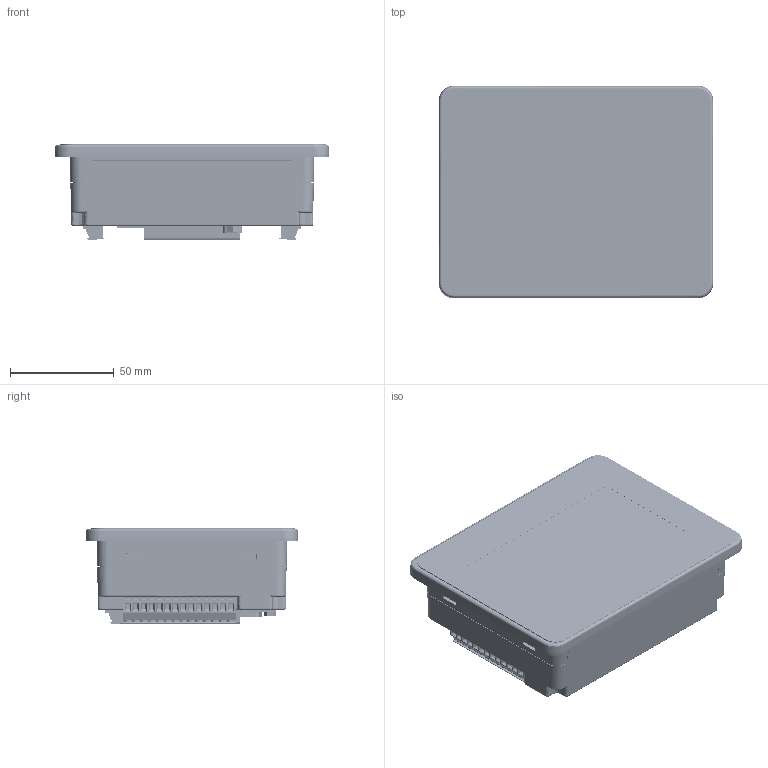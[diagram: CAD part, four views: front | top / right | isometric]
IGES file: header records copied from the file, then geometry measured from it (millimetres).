
Start section: SolidWorks IGES file using analytic representation for surfaces
Global section: file name: F:\Tec\CAD\HMI\MK043E-27DT\MK043E-27DT-221122a\MK043E-27DT-221122a X03c.IGS; native system: SolidWorks 2018; preprocessor: SolidWorks 2018; author: dell; date: 230202.171512; units: millimetre
Bounding box: 132 x 102 x 45.7 mm (x, y, z)
Surface area: 100462.9 mm2 (no closed solid volume)
Topology: 0 solids, 0 shells, 6252 faces, 50114 edges, 50113 vertices
Faces by surface type: bspline 4531, revolution 1721
